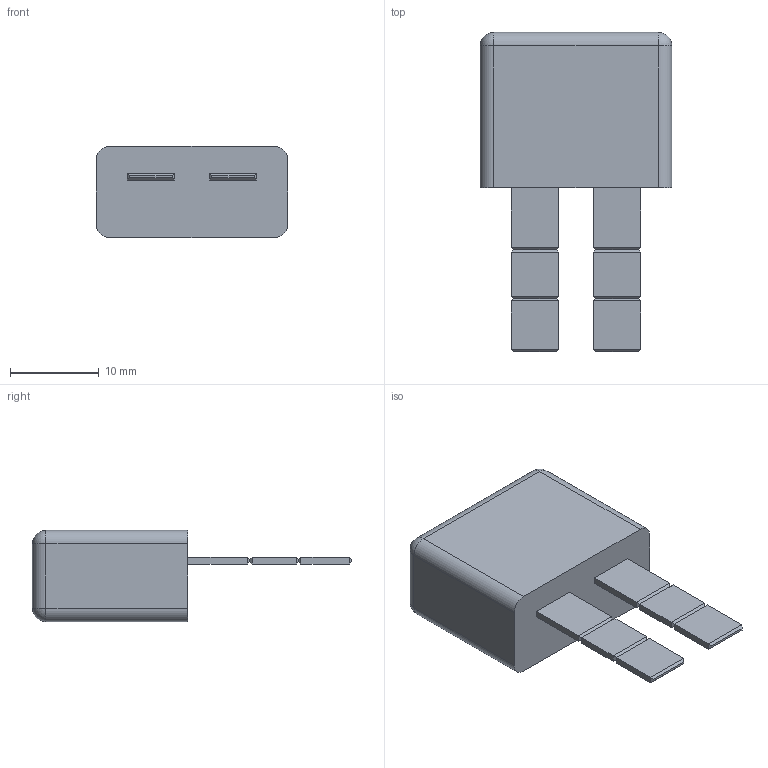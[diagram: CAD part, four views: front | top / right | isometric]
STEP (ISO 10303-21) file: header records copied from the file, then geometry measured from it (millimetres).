
FILE_DESCRIPTION(/* description */ (''),/* implementation_level */ '2;1');
FILE_NAME(/* name */ 'C:\Users\Hani\Desktop\work\ACB2-PL\ACB2-PL.stp',/* time_stamp */ '2021-10-09T16:10:43-07:00',/* author */ ('Hani'),/* organization */ (''),/* preprocessor_version */ 'ST-DEVELOPER v17',/* originating_system */ 'Autodesk Inventor 2019',/* authorisation */ '');
FILE_SCHEMA (('AUTOMOTIVE_DESIGN { 1 0 10303 214 3 1 1 }'));
Length unit declared in the file: inch
Products named in the file (1): ACB2-PL
Bounding box: 21.6 x 36.03 x 10.3 mm (x, y, z)
Volume: 3975.2 mm3; surface area: 1925.1 mm2
Topology: 1 solids, 1 shells, 220 faces, 544 edges, 340 vertices
Faces by surface type: plane 141, bspline 67, cylinder 8, sphere 4
Entity records: 6965 total; most frequent: CARTESIAN_POINT 2182, ORIENTED_EDGE 1088, DIRECTION 734, EDGE_CURVE 544, LINE 394, VECTOR 394, VERTEX_POINT 340, EDGE_LOOP 234
